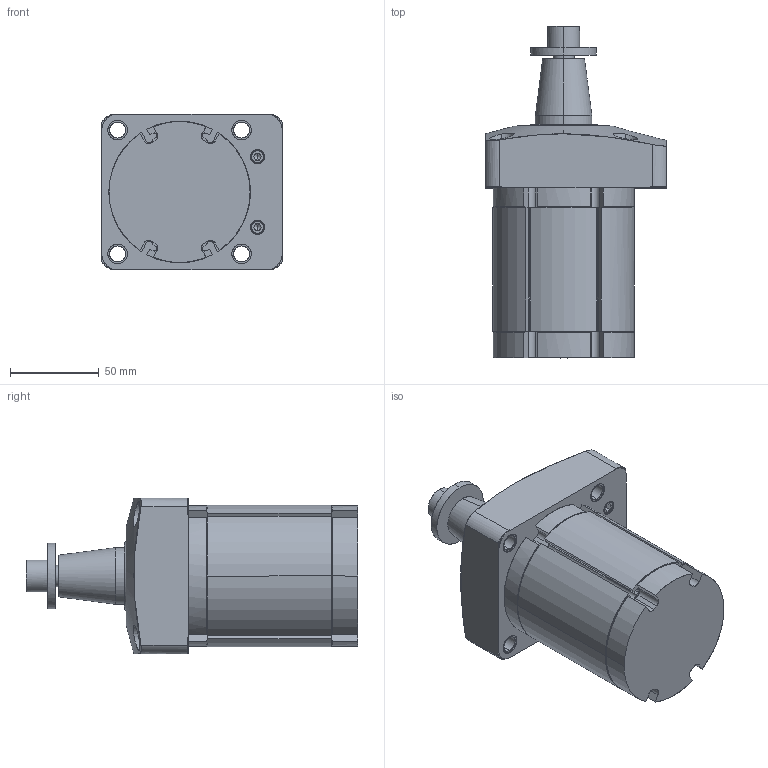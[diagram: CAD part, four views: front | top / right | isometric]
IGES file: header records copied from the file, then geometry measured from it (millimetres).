
Start section: Comment
Global section: file name: jsm50-25.igs; native system:  By Spatial Corp.; preprocessor: XPlus GENERIC/IGES 3.0; author: Author; organization: Title; date: 20080526.115734; units: millimetre
Bounding box: 102 x 187.5 x 88 mm (x, y, z)
Surface area: 114203.5 mm2 (no closed solid volume)
Topology: 0 solids, 0 shells, 355 faces, 1750 edges, 1736 vertices
Faces by surface type: bspline 355
